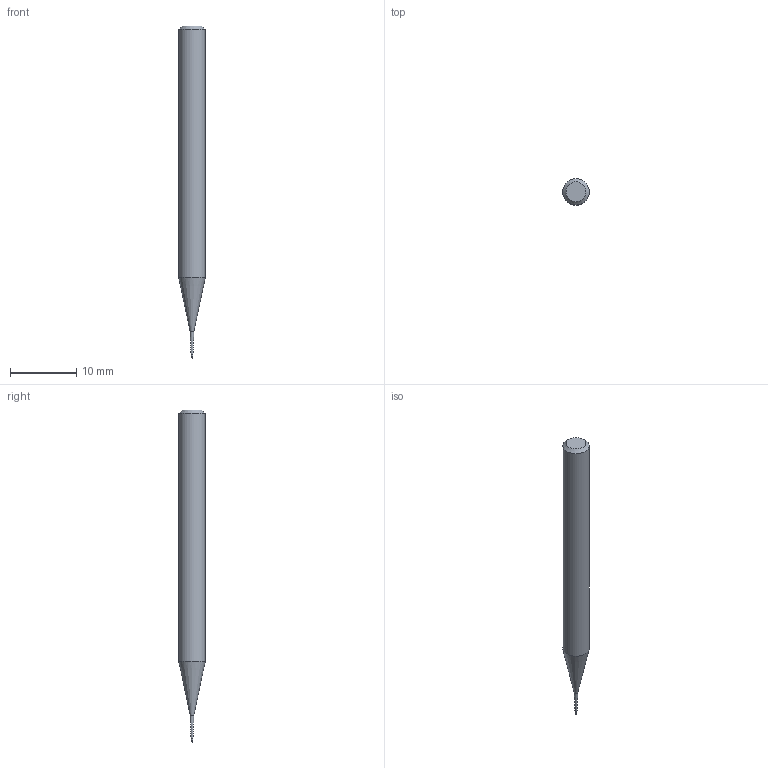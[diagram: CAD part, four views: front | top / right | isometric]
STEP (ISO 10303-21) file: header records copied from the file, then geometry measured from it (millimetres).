
FILE_DESCRIPTION((''),'2;1');
FILE_NAME('C:\Users\nsx150\AppData\Local\Temp\Mastercam 2021\SNAKH10GOD\TEMP.step','2021-10-21T13:30:50',(''),(''),'STEP Write','Mastercam 2021 ... CNC Software, Inc.','');
FILE_SCHEMA(('AUTOMOTIVE_DESIGN'));
Length unit declared in the file: millimetre
Products named in the file (1): None
Bounding box: 4 x 4 x 50 mm (x, y, z)
Volume: 514.2 mm3; surface area: 548.9 mm2
Topology: 2 solids, 2 shells, 10 faces, 16 edges, 9 vertices
Faces by surface type: plane 3, cylinder 3, cone 3, sphere 1
Full cylindrical faces by diameter (mm): 0.295 x1, 0.3 x1, 4 x1
Entity records: 232 total; most frequent: DIRECTION 40, CARTESIAN_POINT 28, AXIS2_PLACEMENT_3D 20, ORIENTED_EDGE 16, EDGE_LOOP 16, STYLED_ITEM 13, ADVANCED_FACE 10, FACE_BOUND 9
